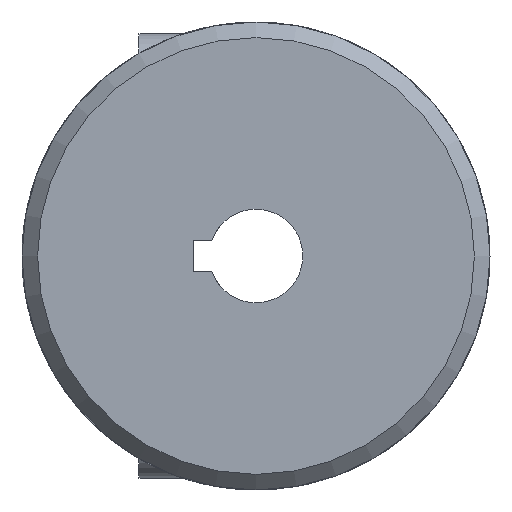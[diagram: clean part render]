
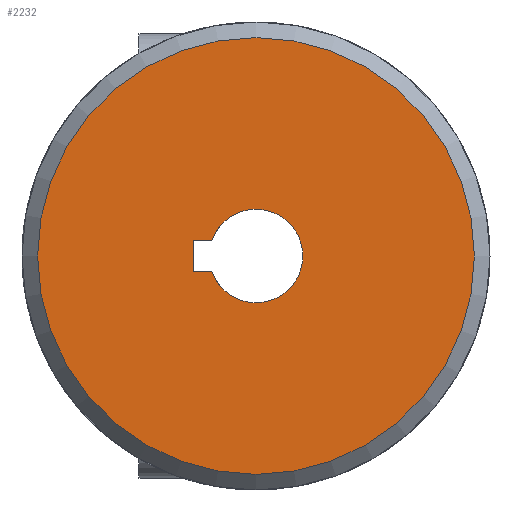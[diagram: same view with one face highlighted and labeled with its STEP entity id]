
A CAD part, left-side view. The second image highlights one B-rep face of the part: STEP entity #2232.
In plain terms, the highlighted planar face has unit normal (-1, 0, 0) as drawn and (0, 0, -1) by its records, which use the part's own axes.
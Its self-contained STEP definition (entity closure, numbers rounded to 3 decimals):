
#160=FACE_BOUND('',#477,.T.);
#336=FACE_OUTER_BOUND('',#476,.T.);
#476=EDGE_LOOP('',(#1949));
#477=EDGE_LOOP('',(#1950,#1951,#1952,#1953));
#600=CIRCLE('',#2570,3.);
#601=CIRCLE('',#2572,14.);
#727=LINE('',#4494,#854);
#730=LINE('',#4501,#857);
#736=LINE('',#4516,#863);
#854=VECTOR('',#3084,10.);
#857=VECTOR('',#3091,10.);
#863=VECTOR('',#3103,10.);
#1051=VERTEX_POINT('',#4491);
#1052=VERTEX_POINT('',#4493);
#1054=VERTEX_POINT('',#4499);
#1060=VERTEX_POINT('',#4514);
#1066=VERTEX_POINT('',#4569);
#1348=EDGE_CURVE('',#1052,#1051,#727,.T.);
#1352=EDGE_CURVE('',#1051,#1054,#730,.T.);
#1359=EDGE_CURVE('',#1054,#1060,#736,.T.);
#1368=EDGE_CURVE('',#1060,#1052,#600,.T.);
#1371=EDGE_CURVE('',#1066,#1066,#601,.T.);
#1949=ORIENTED_EDGE('',*,*,#1371,.F.);
#1950=ORIENTED_EDGE('',*,*,#1348,.T.);
#1951=ORIENTED_EDGE('',*,*,#1352,.T.);
#1952=ORIENTED_EDGE('',*,*,#1359,.T.);
#1953=ORIENTED_EDGE('',*,*,#1368,.T.);
#2122=PLANE('',#2571);
#2232=ADVANCED_FACE('',(#336,#160),#2122,.T.);
#2570=AXIS2_PLACEMENT_3D('',#4548,#3118,#3119);
#2571=AXIS2_PLACEMENT_3D('',#4568,#3120,#3121);
#2572=AXIS2_PLACEMENT_3D('',#4570,#3122,#3123);
#3084=DIRECTION('',(-1.,0.,0.));
#3091=DIRECTION('',(0.,-1.,0.));
#3103=DIRECTION('',(1.,0.,0.));
#3118=DIRECTION('center_axis',(0.,0.,
1.));
#3119=DIRECTION('ref_axis',(1.,0.,0.));
#3120=DIRECTION('center_axis',(0.,0.,
-1.));
#3121=DIRECTION('ref_axis',(0.,-1.,0.));
#3122=DIRECTION('center_axis',(0.,0.,
1.));
#3123=DIRECTION('ref_axis',(0.,1.,0.));
#4491=CARTESIAN_POINT('',(-4.,1.,-11.));
#4493=CARTESIAN_POINT('',(-2.828,1.,-11.));
#4494=CARTESIAN_POINT('',(-1.414,1.,-11.));
#4499=CARTESIAN_POINT('',(-4.,-1.,-11.));
#4501=CARTESIAN_POINT('',(-4.,0.5,-11.));
#4514=CARTESIAN_POINT('',(-2.828,-1.,-11.));
#4516=CARTESIAN_POINT('',(-2.,-1.,-11.));
#4548=CARTESIAN_POINT('Origin',(0.,0.,
-11.));
#4568=CARTESIAN_POINT('Origin',(0.,0.,
-11.));
#4569=CARTESIAN_POINT('',(0.,-14.,-11.));
#4570=CARTESIAN_POINT('Origin',(0.,0.,
-11.));
